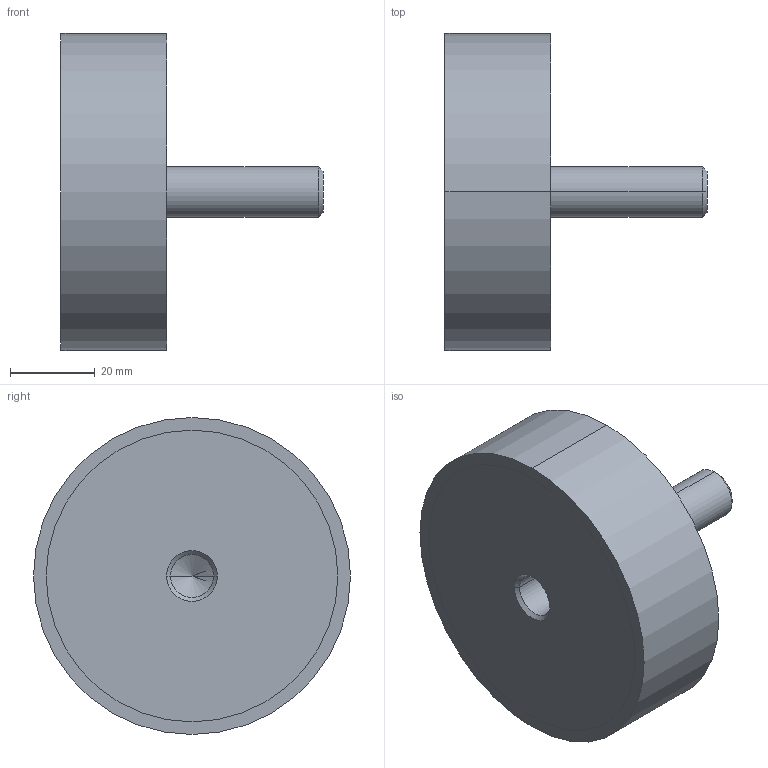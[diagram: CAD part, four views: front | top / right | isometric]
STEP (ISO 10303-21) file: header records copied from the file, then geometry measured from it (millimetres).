
FILE_DESCRIPTION (( 'STEP AP214' ), '1' );
FILE_NAME ('351-75-25-M12-ES-40.step', '2025-07-23T09:59:37', ( '' ), ( '' ), 'SwSTEP 2.0', 'SolidWorks 2022', '' );
FILE_SCHEMA (( 'AUTOMOTIVE_DESIGN' ));
Length unit declared in the file: millimetre
Products named in the file (1): 351-75-25-M12-ES-40
Bounding box: 62 x 75 x 75 mm (x, y, z)
Volume: 113343.5 mm3; surface area: 16528.2 mm2
Topology: 1 solids, 1 shells, 24 faces, 48 edges, 29 vertices
Faces by surface type: cylinder 12, cone 6, plane 6
Entity records: 740 total; most frequent: DIRECTION 124, CARTESIAN_POINT 100, ORIENTED_EDGE 92, AXIS2_PLACEMENT_3D 53, EDGE_CURVE 46, EDGE_LOOP 29, VERTEX_POINT 29, CIRCLE 28
